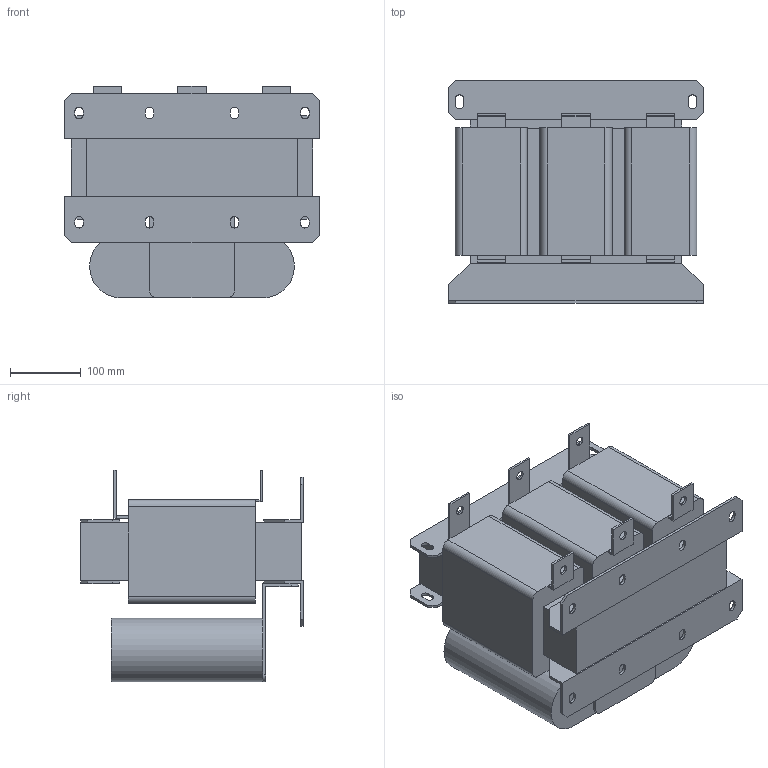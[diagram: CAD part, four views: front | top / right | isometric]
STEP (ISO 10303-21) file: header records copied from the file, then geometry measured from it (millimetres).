
FILE_DESCRIPTION(/* description */ (''),/* implementation_level */ '2;1');
FILE_NAME(/* name */ 'Sin-T4-180.stp',/* time_stamp */ '2025-03-10T15:28:39+04:00',/* author */ ('Лео'),/* organization */ (''),/* preprocessor_version */ 'ST-DEVELOPER v19.2',/* originating_system */ 'Autodesk Inventor 2024',/* authorisation */ '');
FILE_SCHEMA (('AUTOMOTIVE_DESIGN { 1 0 10303 214 3 1 1 }'));
Length unit declared in the file: millimetre
Products named in the file (1): Sin-T4-004
Bounding box: 360 x 315 x 300 mm (x, y, z)
Volume: 17209643.7 mm3; surface area: 1083262.3 mm2
Topology: 23 solids, 23 shells, 230 faces, 552 edges, 368 vertices
Faces by surface type: plane 182, cylinder 48
Full cylindrical faces by diameter (mm): 13 x6
Entity records: 6725 total; most frequent: CARTESIAN_POINT 1151, DIRECTION 1110, ORIENTED_EDGE 1104, EDGE_CURVE 552, LINE 456, VECTOR 456, VERTEX_POINT 368, AXIS2_PLACEMENT_3D 327
